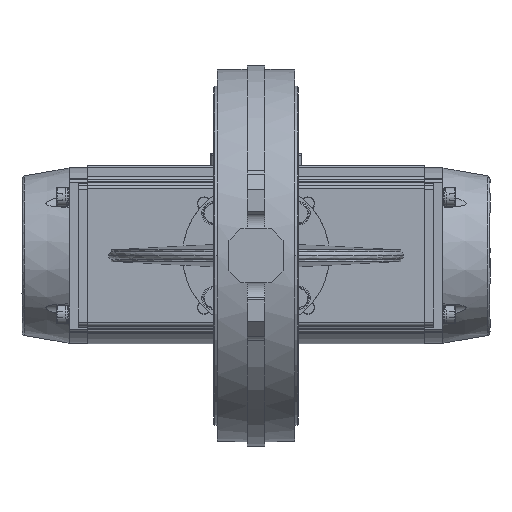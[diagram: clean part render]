
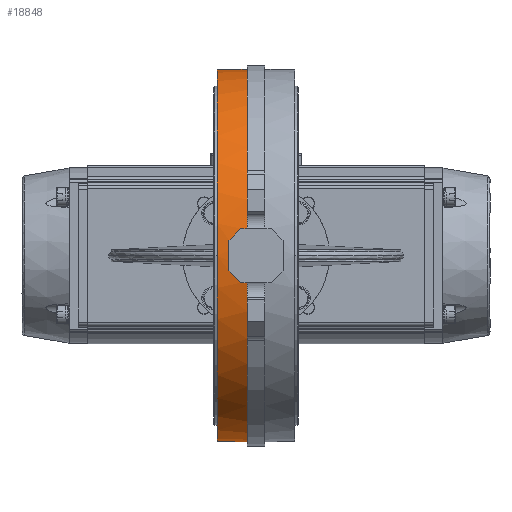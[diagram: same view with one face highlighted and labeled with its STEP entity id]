
A CAD part, front view. The second image highlights one B-rep face of the part: STEP entity #18848.
In plain terms, the highlighted conical face has half-angle 1 degrees and reference radius 158.445 mm.
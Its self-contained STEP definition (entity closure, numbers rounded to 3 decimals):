
#160 = ORIENTED_EDGE ( 'NONE', *, *, #22001, .T. ) ;
#1406 = CARTESIAN_POINT ( 'NONE',  ( -7.5, 0., 0. ) ) ;
#2572 = EDGE_CURVE ( 'NONE', #20979, #26565, #17973, .T. ) ;
#3129 = CARTESIAN_POINT ( 'NONE',  ( -7.5, 0., 158.445 ) ) ;
#3708 = ORIENTED_EDGE ( 'NONE', *, *, #46450, .T. ) ;
#5563 = DIRECTION ( 'NONE',  ( 1., 0., -0.017 ) ) ;
#5702 = EDGE_LOOP ( 'NONE', ( #40194, #43189, #160, #26849, #40747, #25654, #3708, #58102, #56409, #67200 ) ) ;
#6767 = DIRECTION ( 'NONE',  ( -1., 0., 0. ) ) ;
#7279 = AXIS2_PLACEMENT_3D ( 'NONE', #1406, #6767, #38646 ) ;
#10544 = CIRCLE ( 'NONE', #11715, 158. ) ;
#10906 = VERTEX_POINT ( 'NONE', #58383 ) ;
#10967 = CARTESIAN_POINT ( 'NONE',  ( -13., -156.67, 23. ) ) ;
#11715 = AXIS2_PLACEMENT_3D ( 'NONE', #43050, #60855, #65124 ) ;
#12469 = VERTEX_POINT ( 'NONE', #41329 ) ;
#16681 = AXIS2_PLACEMENT_3D ( 'NONE', #44701, #23803, #51060 ) ;
#17294 = EDGE_CURVE ( 'NONE', #10906, #64944, #30184, .T. ) ;
#17973 = CIRCLE ( 'NONE', #30396, 158.445 ) ;
#18848 = ADVANCED_FACE ( 'NONE', ( #34392 ), #25732, .T. ) ;
#20683 =( BOUNDED_CURVE ( )  B_SPLINE_CURVE ( 3, ( #36411, #58093, #61271, #28255 ),
 .UNSPECIFIED., .F., .F. ) 
 B_SPLINE_CURVE_WITH_KNOTS ( ( 4, 4 ),
 ( 1.442, 1.506 ),
 .UNSPECIFIED. ) 
 CURVE ( )  GEOMETRIC_REPRESENTATION_ITEM ( )  RATIONAL_B_SPLINE_CURVE ( ( 1., 1., 1., 1. ) ) 
 REPRESENTATION_ITEM ( '' )  );
#20979 = VERTEX_POINT ( 'NONE', #45939 ) ;
#21959 = CIRCLE ( 'NONE', #45717, 158.175 ) ;
#22001 = EDGE_CURVE ( 'NONE', #12469, #20979, #32128, .T. ) ;
#22018 = EDGE_CURVE ( 'NONE', #58982, #34358, #20683, .T. ) ;
#22474 = CARTESIAN_POINT ( 'NONE',  ( -7.5, -156.767, -23. ) ) ;
#22654 = CARTESIAN_POINT ( 'NONE',  ( -16.322, -157.099, 19.678 ) ) ;
#23803 = DIRECTION ( 'NONE',  ( 1., 0., 0. ) ) ;
#24769 = VECTOR ( 'NONE', #5563, 1000. ) ;
#25654 = ORIENTED_EDGE ( 'NONE', *, *, #22018, .T. ) ;
#25732 = CONICAL_SURFACE ( 'NONE', #16681, 158.445, 0.017 ) ;
#26565 = VERTEX_POINT ( 'NONE', #29392 ) ;
#26849 = ORIENTED_EDGE ( 'NONE', *, *, #2572, .T. ) ;
#27542 = CARTESIAN_POINT ( 'NONE',  ( -23., 0., 0. ) ) ;
#27681 = VECTOR ( 'NONE', #67049, 1000. ) ;
#27809 = B_SPLINE_CURVE_WITH_KNOTS ( 'NONE', 3,
 ( #22474, #59751, #43356, #33764 ),
 .UNSPECIFIED., .F., .F.,
 ( 4, 4 ),
 ( 0., 1. ),
 .UNSPECIFIED. ) ;
#28255 = CARTESIAN_POINT ( 'NONE',  ( -23., -157.639, -13. ) ) ;
#29040 = VERTEX_POINT ( 'NONE', #69976 ) ;
#29392 = CARTESIAN_POINT ( 'NONE',  ( -7.5, -156.767, -23. ) ) ;
#30184 =( BOUNDED_CURVE ( )  B_SPLINE_CURVE ( 3, ( #59939, #54203, #22654, #10967 ),
 .UNSPECIFIED., .F., .T. ) 
 B_SPLINE_CURVE_WITH_KNOTS ( ( 4, 4 ),
 ( 4.777, 4.841 ),
 .UNSPECIFIED. ) 
 CURVE ( )  GEOMETRIC_REPRESENTATION_ITEM ( )  RATIONAL_B_SPLINE_CURVE ( ( 1., 1., 1., 1. ) ) 
 REPRESENTATION_ITEM ( '' )  );
#30352 = DIRECTION ( 'NONE',  ( 0., 0., -1. ) ) ;
#30396 = AXIS2_PLACEMENT_3D ( 'NONE', #61973, #47000, #30352 ) ;
#30784 = EDGE_CURVE ( 'NONE', #26565, #58982, #27809, .T. ) ;
#32128 = LINE ( 'NONE', #70183, #24769 ) ;
#32157 = CARTESIAN_POINT ( 'NONE',  ( -7.5, -156.767, 23. ) ) ;
#32915 = CARTESIAN_POINT ( 'NONE',  ( -23., -157.639, -13. ) ) ;
#33764 = CARTESIAN_POINT ( 'NONE',  ( -13., -156.67, -23. ) ) ;
#34358 = VERTEX_POINT ( 'NONE', #32915 ) ;
#34392 = FACE_OUTER_BOUND ( 'NONE', #5702, .T. ) ;
#36411 = CARTESIAN_POINT ( 'NONE',  ( -13., -156.67, -23. ) ) ;
#37293 = EDGE_CURVE ( 'NONE', #49969, #12469, #10544, .T. ) ;
#37633 = CARTESIAN_POINT ( 'NONE',  ( -9.333, -156.735, 23. ) ) ;
#37801 = CIRCLE ( 'NONE', #7279, 158.445 ) ;
#37993 = CARTESIAN_POINT ( 'NONE',  ( -7.5, -156.767, 23. ) ) ;
#38599 = EDGE_CURVE ( 'NONE', #49969, #29040, #46711, .T. ) ;
#38646 = DIRECTION ( 'NONE',  ( 0., 0., -1. ) ) ;
#40194 = ORIENTED_EDGE ( 'NONE', *, *, #38599, .F. ) ;
#40578 = EDGE_CURVE ( 'NONE', #51981, #29040, #37801, .T. ) ;
#40747 = ORIENTED_EDGE ( 'NONE', *, *, #30784, .T. ) ;
#41329 = CARTESIAN_POINT ( 'NONE',  ( -33., 0., -158. ) ) ;
#43050 = CARTESIAN_POINT ( 'NONE',  ( -33., 0., 0. ) ) ;
#43189 = ORIENTED_EDGE ( 'NONE', *, *, #37293, .T. ) ;
#43248 = EDGE_CURVE ( 'NONE', #64944, #51981, #44569, .T. ) ;
#43356 = CARTESIAN_POINT ( 'NONE',  ( -11.167, -156.702, -23. ) ) ;
#43427 = CARTESIAN_POINT ( 'NONE',  ( -13., -156.67, 23. ) ) ;
#44569 = B_SPLINE_CURVE_WITH_KNOTS ( 'NONE', 3,
 ( #47962, #68995, #37633, #37993 ),
 .UNSPECIFIED., .F., .F.,
 ( 4, 4 ),
 ( 0., 1. ),
 .UNSPECIFIED. ) ;
#44701 = CARTESIAN_POINT ( 'NONE',  ( -7.5, 0., 0. ) ) ;
#45717 = AXIS2_PLACEMENT_3D ( 'NONE', #27542, #55567, #50187 ) ;
#45939 = CARTESIAN_POINT ( 'NONE',  ( -7.5, 0., -158.445 ) ) ;
#46450 = EDGE_CURVE ( 'NONE', #34358, #10906, #21959, .T. ) ;
#46711 = LINE ( 'NONE', #3129, #27681 ) ;
#47000 = DIRECTION ( 'NONE',  ( -1., 0., 0. ) ) ;
#47962 = CARTESIAN_POINT ( 'NONE',  ( -13., -156.67, 23. ) ) ;
#49969 = VERTEX_POINT ( 'NONE', #63530 ) ;
#50187 = DIRECTION ( 'NONE',  ( 0., 0., -1. ) ) ;
#51060 = DIRECTION ( 'NONE',  ( 0., 0., -1. ) ) ;
#51981 = VERTEX_POINT ( 'NONE', #32157 ) ;
#54203 = CARTESIAN_POINT ( 'NONE',  ( -19.657, -157.422, 16.343 ) ) ;
#55567 = DIRECTION ( 'NONE',  ( -1., 0., 0. ) ) ;
#56409 = ORIENTED_EDGE ( 'NONE', *, *, #43248, .T. ) ;
#58093 = CARTESIAN_POINT ( 'NONE',  ( -16.322, -157.099, -19.678 ) ) ;
#58102 = ORIENTED_EDGE ( 'NONE', *, *, #17294, .T. ) ;
#58383 = CARTESIAN_POINT ( 'NONE',  ( -23., -157.639, 13. ) ) ;
#58982 = VERTEX_POINT ( 'NONE', #68808 ) ;
#59751 = CARTESIAN_POINT ( 'NONE',  ( -9.333, -156.735, -23. ) ) ;
#59939 = CARTESIAN_POINT ( 'NONE',  ( -23., -157.639, 13. ) ) ;
#60855 = DIRECTION ( 'NONE',  ( 1., 0., 0. ) ) ;
#61271 = CARTESIAN_POINT ( 'NONE',  ( -19.657, -157.422, -16.343 ) ) ;
#61973 = CARTESIAN_POINT ( 'NONE',  ( -7.5, 0., 0. ) ) ;
#63530 = CARTESIAN_POINT ( 'NONE',  ( -33., 0., 158. ) ) ;
#64944 = VERTEX_POINT ( 'NONE', #43427 ) ;
#65124 = DIRECTION ( 'NONE',  ( 0., 0., -1. ) ) ;
#67049 = DIRECTION ( 'NONE',  ( 1., 0., 0.017 ) ) ;
#67200 = ORIENTED_EDGE ( 'NONE', *, *, #40578, .T. ) ;
#68808 = CARTESIAN_POINT ( 'NONE',  ( -13., -156.67, -23. ) ) ;
#68995 = CARTESIAN_POINT ( 'NONE',  ( -11.167, -156.702, 23. ) ) ;
#69976 = CARTESIAN_POINT ( 'NONE',  ( -7.5, 0., 158.445 ) ) ;
#70183 = CARTESIAN_POINT ( 'NONE',  ( -7.5, 0., -158.445 ) ) ;
